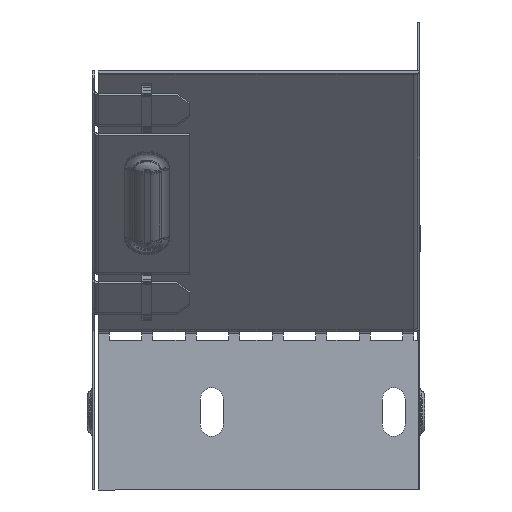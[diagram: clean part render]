
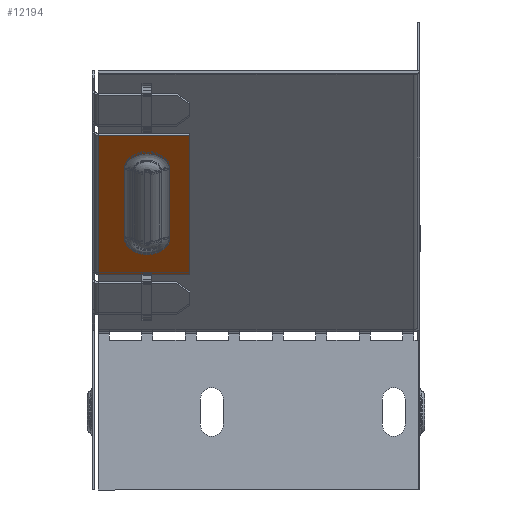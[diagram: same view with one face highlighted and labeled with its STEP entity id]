
A CAD part, left-side view. The second image highlights one B-rep face of the part: STEP entity #12194.
In plain terms, the highlighted planar face has unit normal (-0.707, 0, -0.707).
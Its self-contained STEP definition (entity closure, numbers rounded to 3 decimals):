
#932 = EDGE_CURVE ( 'NONE', #22603, #1110, #15346, .T. ) ;
#1110 = VERTEX_POINT ( 'NONE', #19067 ) ;
#1494 = EDGE_CURVE ( 'NONE', #19827, #1110, #22281, .T. ) ;
#1719 = VERTEX_POINT ( 'NONE', #6065 ) ;
#1893 = PLANE ( 'NONE',  #9461 ) ;
#2310 = CARTESIAN_POINT ( 'NONE',  ( -169.022, 70., -77.656 ) ) ;
#2742 = LINE ( 'NONE', #18811, #18596 ) ;
#2839 = CARTESIAN_POINT ( 'NONE',  ( -201.206, 83.1, -45.472 ) ) ;
#3153 = VECTOR ( 'NONE', #17089, 1000. ) ;
#3594 = CARTESIAN_POINT ( 'NONE',  ( -169.022, 98.2, -77.656 ) ) ;
#3698 = AXIS2_PLACEMENT_3D ( 'NONE', #19132, #9626, #22660 ) ;
#3997 = EDGE_CURVE ( 'NONE', #12931, #12112, #13022, .T. ) ;
#4665 = ORIENTED_EDGE ( 'NONE', *, *, #7828, .T. ) ;
#5107 = LINE ( 'NONE', #7055, #6243 ) ;
#5204 = DIRECTION ( 'NONE',  ( -0.707, 0., 0.707 ) ) ;
#5242 = ORIENTED_EDGE ( 'NONE', *, *, #7872, .T. ) ;
#5940 = DIRECTION ( 'NONE',  ( 0.707, 0., 0.707 ) ) ;
#6065 = CARTESIAN_POINT ( 'NONE',  ( -179.993, 76.183, -66.685 ) ) ;
#6243 = VECTOR ( 'NONE', #8968, 1000. ) ;
#6817 = FACE_OUTER_BOUND ( 'NONE', #15214, .T. ) ;
#7000 = CARTESIAN_POINT ( 'NONE',  ( -211.823, 70., -34.855 ) ) ;
#7055 = CARTESIAN_POINT ( 'NONE',  ( -115.837, 70., -130.841 ) ) ;
#7167 = VERTEX_POINT ( 'NONE', #21477 ) ;
#7828 = EDGE_CURVE ( 'NONE', #1719, #20459, #14070, .T. ) ;
#7872 = EDGE_CURVE ( 'NONE', #19827, #7167, #17838, .T. ) ;
#8546 = DIRECTION ( 'NONE',  ( 0.707, 0., -0.707 ) ) ;
#8951 = ORIENTED_EDGE ( 'NONE', *, *, #14898, .T. ) ;
#8968 = DIRECTION ( 'NONE',  ( -0.707, 0., 0.707 ) ) ;
#9461 = AXIS2_PLACEMENT_3D ( 'NONE', #9707, #5940, #11471 ) ;
#9551 = EDGE_LOOP ( 'NONE', ( #8951, #4665, #19777, #20582 ) ) ;
#9626 = DIRECTION ( 'NONE',  ( 0.707, 0., 0.707 ) ) ;
#9644 = CARTESIAN_POINT ( 'NONE',  ( -211.823, 70., -34.855 ) ) ;
#9707 = CARTESIAN_POINT ( 'NONE',  ( -115.837, 100., -130.841 ) ) ;
#9844 = EDGE_CURVE ( 'NONE', #20459, #12931, #2742, .T. ) ;
#10311 = DIRECTION ( 'NONE',  ( 0.707, 0., 0.707 ) ) ;
#10588 = DIRECTION ( 'NONE',  ( -0.707, 0., 0.707 ) ) ;
#11298 = VECTOR ( 'NONE', #8546, 1000. ) ;
#11471 = DIRECTION ( 'NONE',  ( 0.707, 0., -0.707 ) ) ;
#11522 = CARTESIAN_POINT ( 'NONE',  ( -201.206, 76.183, -45.472 ) ) ;
#11944 = DIRECTION ( 'NONE',  ( 0.5, -0.707, -0.5 ) ) ;
#11979 = EDGE_CURVE ( 'NONE', #7167, #22603, #5107, .T. ) ;
#12112 = VERTEX_POINT ( 'NONE', #11522 ) ;
#12194 = ADVANCED_FACE ( 'NONE', ( #22083, #6817 ), #1893, .F. ) ;
#12358 = CARTESIAN_POINT ( 'NONE',  ( -228.087, 98.2, -18.591 ) ) ;
#12481 = VECTOR ( 'NONE', #10588, 1000. ) ;
#12931 = VERTEX_POINT ( 'NONE', #14264 ) ;
#13022 = CIRCLE ( 'NONE', #18753, 6.917 ) ;
#13949 = CARTESIAN_POINT ( 'NONE',  ( -179.993, 76.183, -66.685 ) ) ;
#14070 = CIRCLE ( 'NONE', #3698, 6.917 ) ;
#14264 = CARTESIAN_POINT ( 'NONE',  ( -201.206, 90.017, -45.472 ) ) ;
#14898 = EDGE_CURVE ( 'NONE', #12112, #1719, #18229, .T. ) ;
#15214 = EDGE_LOOP ( 'NONE', ( #17342, #5242, #17477, #20750 ) ) ;
#15346 = LINE ( 'NONE', #9644, #15645 ) ;
#15645 = VECTOR ( 'NONE', #22523, 1000. ) ;
#17089 = DIRECTION ( 'NONE',  ( 0., -1., 0. ) ) ;
#17342 = ORIENTED_EDGE ( 'NONE', *, *, #1494, .F. ) ;
#17477 = ORIENTED_EDGE ( 'NONE', *, *, #11979, .T. ) ;
#17838 = LINE ( 'NONE', #2310, #3153 ) ;
#18207 = CARTESIAN_POINT ( 'NONE',  ( -179.993, 90.017, -66.685 ) ) ;
#18229 = LINE ( 'NONE', #13949, #11298 ) ;
#18596 = VECTOR ( 'NONE', #5204, 1000. ) ;
#18753 = AXIS2_PLACEMENT_3D ( 'NONE', #2839, #10311, #11944 ) ;
#18811 = CARTESIAN_POINT ( 'NONE',  ( -179.993, 90.017, -66.685 ) ) ;
#19067 = CARTESIAN_POINT ( 'NONE',  ( -211.823, 98.2, -34.855 ) ) ;
#19132 = CARTESIAN_POINT ( 'NONE',  ( -179.993, 83.1, -66.685 ) ) ;
#19777 = ORIENTED_EDGE ( 'NONE', *, *, #9844, .T. ) ;
#19827 = VERTEX_POINT ( 'NONE', #3594 ) ;
#20459 = VERTEX_POINT ( 'NONE', #18207 ) ;
#20582 = ORIENTED_EDGE ( 'NONE', *, *, #3997, .T. ) ;
#20750 = ORIENTED_EDGE ( 'NONE', *, *, #932, .T. ) ;
#21477 = CARTESIAN_POINT ( 'NONE',  ( -169.022, 70., -77.656 ) ) ;
#22083 = FACE_BOUND ( 'NONE', #9551, .T. ) ;
#22281 = LINE ( 'NONE', #12358, #12481 ) ;
#22523 = DIRECTION ( 'NONE',  ( 0., 1., 0. ) ) ;
#22603 = VERTEX_POINT ( 'NONE', #7000 ) ;
#22660 = DIRECTION ( 'NONE',  ( 0.5, -0.707, -0.5 ) ) ;
